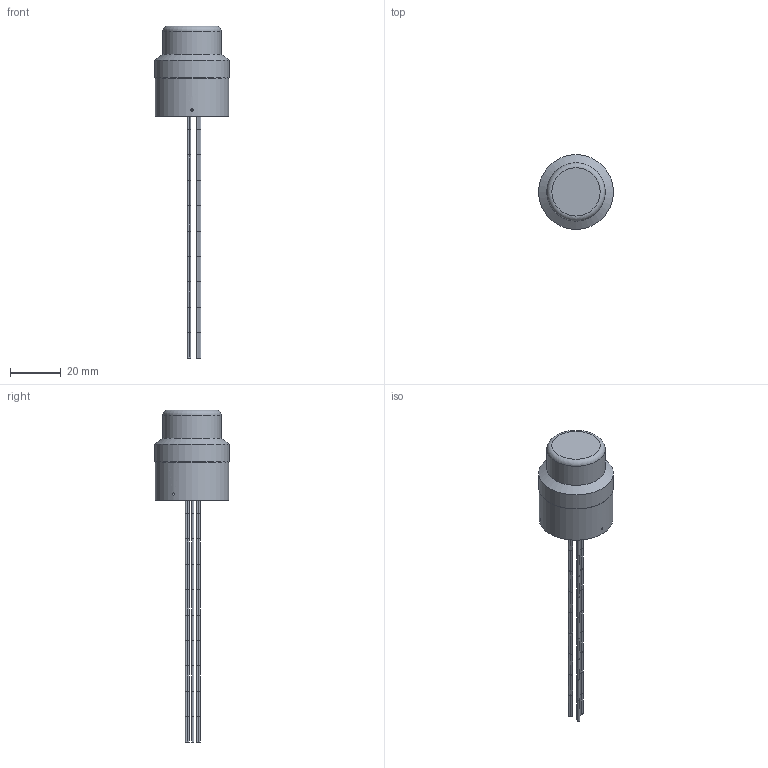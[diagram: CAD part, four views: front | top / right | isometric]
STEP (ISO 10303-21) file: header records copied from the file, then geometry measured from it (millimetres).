
FILE_DESCRIPTION(/* description */ (''),/* implementation_level */ '2;1');
FILE_NAME(/* name */ 'WL-21048-1-O--Public--v2.step',/* time_stamp */ '2023-05-24T14:26:16+02:00',/* author */ (''),/* organization */ (''),/* preprocessor_version */ 'ST-DEVELOPER v19.2',/* originating_system */ 'Autodesk Translation Framework v12.4.0.73',/* authorisation */ '');
FILE_SCHEMA (('AUTOMOTIVE_DESIGN { 1 0 10303 214 3 1 1 }'));
Length unit declared in the file: millimetre
Products named in the file (3): WL-21048-1-O--Public; housing; wires
Assembly tree (2 placements, depth 2):
  WL-21048-1-O--Public
    housing
    wires
Bounding box: 29.5 x 29.5 x 130.81 mm (x, y, z)
Volume: 15789.1 mm3; surface area: 6723 mm2
Topology: 67 solids, 67 shells, 212 faces, 231 edges, 154 vertices
Faces by surface type: plane 135, cylinder 73, cone 3, torus 1
Full cylindrical faces by diameter (mm): 0.86 x66, 0.9 x3, 23 x1, 26 x1, 29.1 x1, 29.5 x1
Entity records: 4306 total; most frequent: CARTESIAN_POINT 806, DIRECTION 796, ORIENTED_EDGE 462, AXIS2_PLACEMENT_3D 360, EDGE_CURVE 231, EDGE_LOOP 219, FACE_OUTER_BOUND 212, ADVANCED_FACE 212
